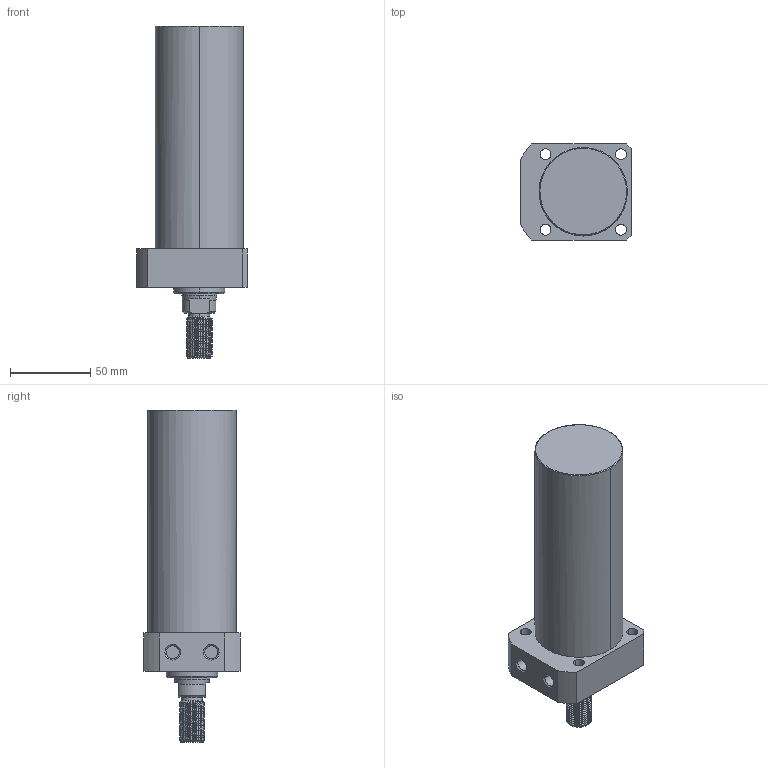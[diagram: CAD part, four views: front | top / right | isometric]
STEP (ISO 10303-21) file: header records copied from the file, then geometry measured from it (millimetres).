
FILE_DESCRIPTION((' '),'2;1');
FILE_NAME( 'TLLR-055CT-110.STEP.stp', '2025-10-24T16:34:48', (' '), ('--- Datakit www.datakit.com---'), ' Datakit CrossCadWare V2024.1 Dec 21 2023', 'Mastercam 2025', ' ');
FILE_SCHEMA(('AUTOMOTIVE_DESIGN { 1 0 10303 214 1 1 1 1 }'));
Length unit declared in the file: millimetre
Products named in the file (1): TLLR-055CT-110
Bounding box: 69 x 60 x 207 mm (x, y, z)
Volume: 435035.9 mm3; surface area: 43762.4 mm2
Topology: 1 solids, 1 shells, 101 faces, 357 edges, 266 vertices
Faces by surface type: cylinder 61, plane 20, cone 16, bspline 2, torus 2
Entity records: 11144 total; most frequent: CARTESIAN_POINT 8056, ORIENTED_EDGE 714, DIRECTION 518, EDGE_CURVE 357, VERTEX_POINT 266, AXIS2_PLACEMENT_3D 210, B_SPLINE_CURVE_WITH_KNOTS 149, EDGE_LOOP 117
